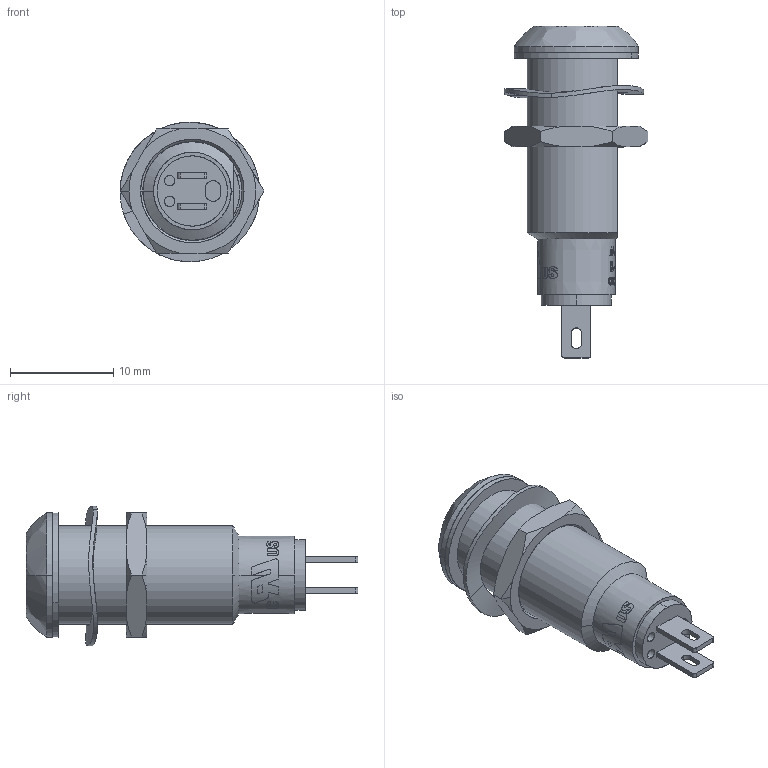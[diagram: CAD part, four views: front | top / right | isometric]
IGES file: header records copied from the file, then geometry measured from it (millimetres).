
Start section: SolidWorks IGES file using analytic representation for surfaces
Global section: file name: C:\Users\paulr\Desktop\690 SERIES.IGS; native system: SolidWorks 2013; preprocessor: SolidWorks 2013; author: paulr; date: 130916.132354; units: millimetre
Bounding box: 13.92 x 32.1 x 13.5 mm (x, y, z)
Surface area: 1589.7 mm2 (no closed solid volume)
Topology: 0 solids, 0 shells, 220 faces, 4442 edges, 4442 vertices
Faces by surface type: bspline 134, revolution 86
